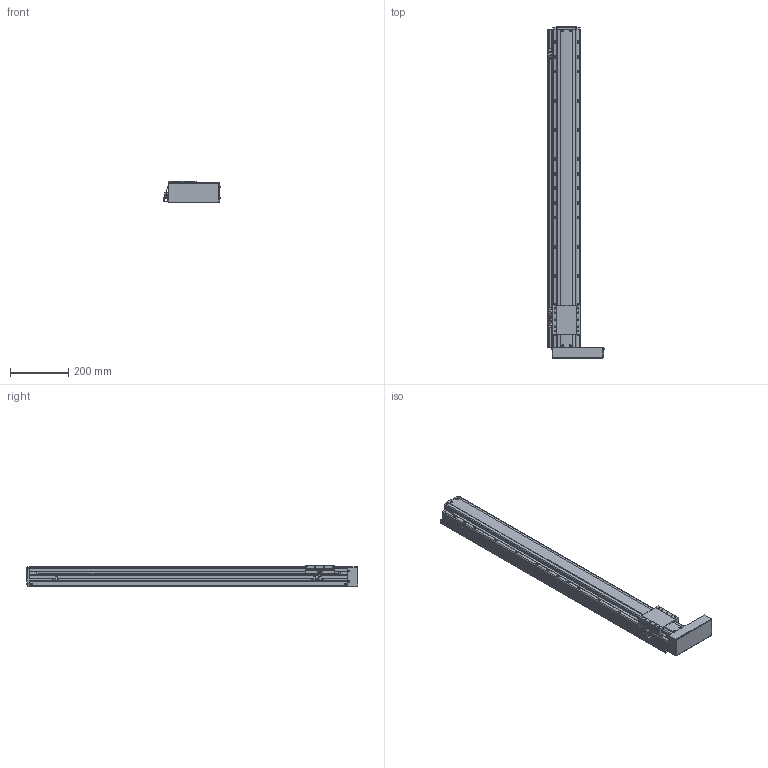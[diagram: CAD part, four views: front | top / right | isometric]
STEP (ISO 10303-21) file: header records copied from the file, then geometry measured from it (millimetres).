
FILE_DESCRIPTION(('STEP AP214'),'1');
FILE_NAME('Z:/Web/3D/PSA95/STP/PSA95-900 (3D)/PSA95ㅁㅁ-900PR+3SL.stp','2014-07-03T00:56:09',(' '),(' '),'Spatial InterOp 3D',' ',' ');
FILE_SCHEMA(('automotive_design'));
Length unit declared in the file: millimetre
Products named in the file (41): BASE; RRCV; 스크루 : Round - M4.0 x 10.0; 너트 : Square - M10.0 x 220.7419; RR1500; FRCV-090; 스크루 : Round - M4.0 x 6.0; SLBL-PA90; MOTOR PLATE COVER; 스크루 : Round - M3.0 x 6.0; EE-SX674; SBK-SX674-352; M3.0 x 6.0; SRL-16x17-380L; SGD-PA95; 스크루 : Round - M3.0 x 8.0
Bounding box: 192.06 x 1136.5 x 74 mm (x, y, z)
Volume: 6418946.6 mm3; surface area: 746860.1 mm2
Topology: 41 solids, 41 shells, 2492 faces, 6654 edges, 4262 vertices
Faces by surface type: plane 1416, cylinder 739, cone 237, sphere 62, bspline 24, torus 14
Entity records: 100052 total; most frequent: CARTESIAN_POINT 16636, DIRECTION 13248, ORIENTED_EDGE 13004, EDGE_CURVE 6502, AXIS2_PLACEMENT_3D 4428, LINE 4392, VECTOR 4392, VERTEX_POINT 4262
